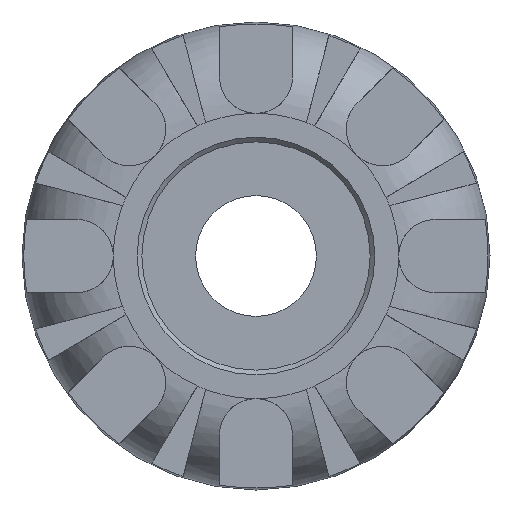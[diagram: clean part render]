
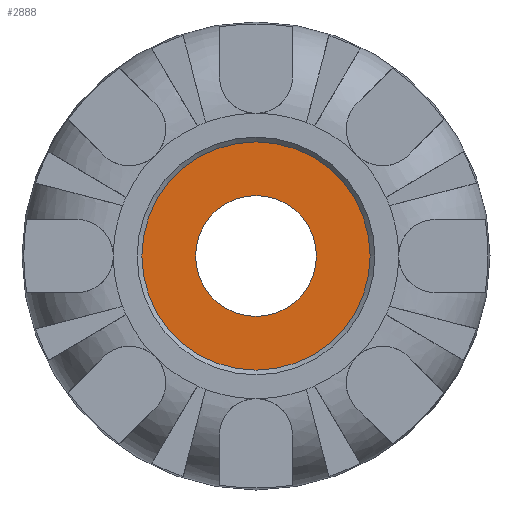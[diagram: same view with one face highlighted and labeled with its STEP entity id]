
A CAD part, left-side view. The second image highlights one B-rep face of the part: STEP entity #2888.
In plain terms, the highlighted planar face has unit normal (-1, 0, 0).
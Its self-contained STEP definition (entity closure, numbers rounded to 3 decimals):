
#37=FACE_BOUND('',#581,.T.);
#139=CIRCLE('',#3075,10.);
#186=CIRCLE('',#3197,5.292);
#399=FACE_OUTER_BOUND('',#580,.T.);
#580=EDGE_LOOP('',(#2450));
#581=EDGE_LOOP('',(#2451));
#1140=VERTEX_POINT('',#5295);
#1239=VERTEX_POINT('',#6405);
#1474=EDGE_CURVE('',#1140,#1140,#139,.T.);
#1643=EDGE_CURVE('',#1239,#1239,#186,.T.);
#2450=ORIENTED_EDGE('',*,*,#1474,.F.);
#2451=ORIENTED_EDGE('',*,*,#1643,.T.);
#2559=PLANE('',#3198);
#2888=ADVANCED_FACE('',(#399,#37),#2559,.T.);
#3075=AXIS2_PLACEMENT_3D('',#5296,#3645,#3646);
#3197=AXIS2_PLACEMENT_3D('',#6406,#3957,#3958);
#3198=AXIS2_PLACEMENT_3D('',#6407,#3959,#3960);
#3645=DIRECTION('center_axis',(1.,0.,0.));
#3646=DIRECTION('ref_axis',(0.,0.,-1.));
#3957=DIRECTION('center_axis',(1.,0.,0.));
#3958=DIRECTION('ref_axis',(0.,0.,-1.));
#3959=DIRECTION('center_axis',(-1.,0.,0.));
#3960=DIRECTION('ref_axis',(0.,0.,1.));
#5295=CARTESIAN_POINT('',(-1.,10.,0.));
#5296=CARTESIAN_POINT('Origin',(-1.,0.,
0.));
#6405=CARTESIAN_POINT('',(-1.,5.292,0.));
#6406=CARTESIAN_POINT('Origin',(-1.,0.,
0.));
#6407=CARTESIAN_POINT('Origin',(-1.,10.,0.));
